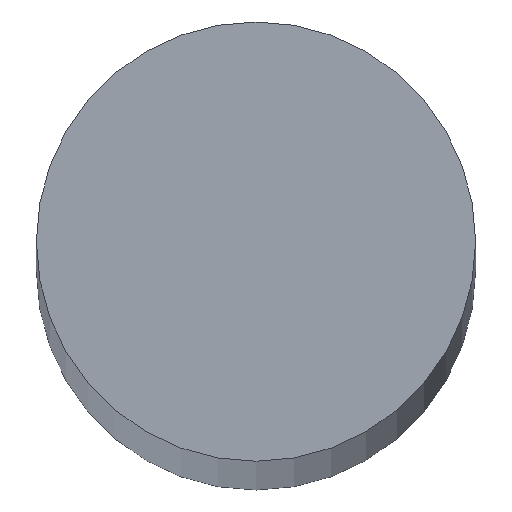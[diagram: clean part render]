
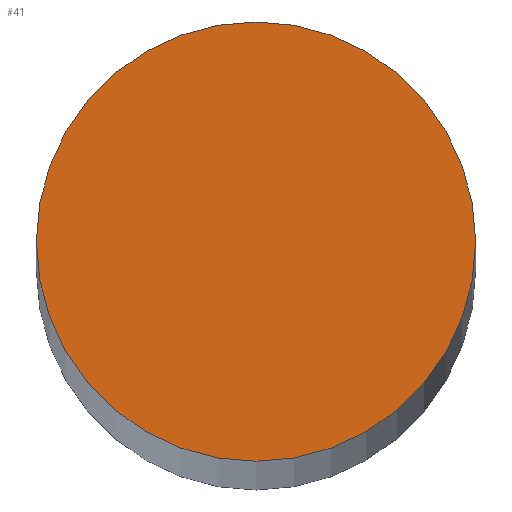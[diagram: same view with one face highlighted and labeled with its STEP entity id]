
A CAD part, top view. The second image highlights one B-rep face of the part: STEP entity #41.
In plain terms, the highlighted planar face has unit normal (0, 0, 1).
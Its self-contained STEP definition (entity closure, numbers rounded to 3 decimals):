
#16=PLANE('',#66);
#19=FACE_OUTER_BOUND('',#22,.T.);
#22=EDGE_LOOP('',(#37));
#25=CIRCLE('',#63,8.);
#27=VERTEX_POINT('',#82);
#29=EDGE_CURVE('',#27,#27,#25,.T.);
#37=ORIENTED_EDGE('',*,*,#29,.T.);
#41=ADVANCED_FACE('',(#19),#16,.T.);
#63=AXIS2_PLACEMENT_3D('',#83,#71,#72);
#66=AXIS2_PLACEMENT_3D('',#88,#78,#79);
#71=DIRECTION('center_axis',(0.,0.,1.));
#72=DIRECTION('ref_axis',(-1.,0.,0.));
#78=DIRECTION('center_axis',(0.,0.,1.));
#79=DIRECTION('ref_axis',(1.,0.,0.));
#82=CARTESIAN_POINT('',(8.,0.,600.));
#83=CARTESIAN_POINT('Origin',(0.,0.,600.));
#88=CARTESIAN_POINT('Origin',(0.,0.,
600.));
